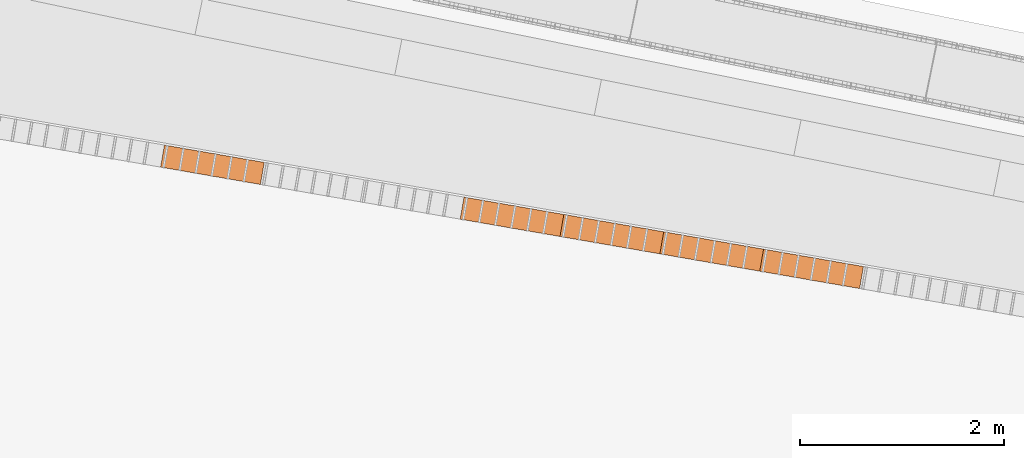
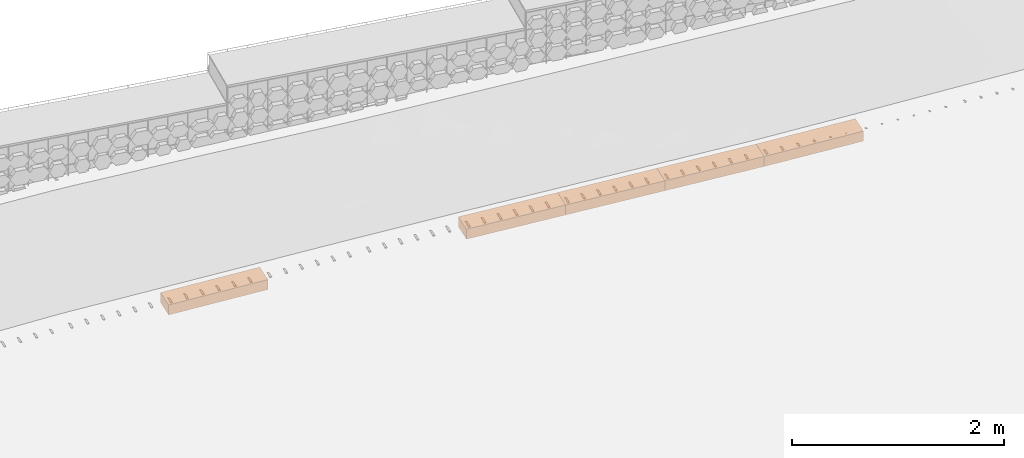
# Not in any storey, part 28 of 33: 5 proxies.
"""IFC4 model written with IfcOpenShell, lengths in metres."""

from ifc_helpers import new_model, si_unit, direction, frame, origin_with_axes, place, context, subcontext, project, spatial, polygons, material, element, save


model = new_model("IFC4")

# Units and contexts
model_context = context("Model", 3, precision=1e-05, world=origin_with_axes(), true_north=direction((0.0, 1.0)))
body_context = subcontext(model_context, "Body", "Model", "MODEL_VIEW")
ifc_project = project(units=[si_unit("LENGTHUNIT", "METRE"), si_unit("AREAUNIT", "SQUARE_METRE"), si_unit("VOLUMEUNIT", "CUBIC_METRE")], contexts=[model_context])

# Site
site_placement = place(None, origin_with_axes())
site = spatial("IfcSite", under=ifc_project, at=site_placement, Name="Lares · Rua das Mercês · artigo 4771")

# Proxies
ifc_material = material(Name="Brita drenante", Category="stone")
proxy_1_placement = place(site_placement, frame((0.0, 0.0, 0.0), z_axis=(0.0, 0.0, 1.0), x_axis=(1.0, -1.03767253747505e-17, 0.0)))
element("IfcBuildingElementProxy", 1, at=proxy_1_placement, inside=site, material=ifc_material, Name="Acesso · dreno lateral raso · leito drenante", ObjectType="Acesso · dreno lateral raso · leito drenante", PredefinedType="USERDEFINED", context=body_context, shape_type="Tessellation", body=[
    polygons([(64.5454351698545, 8.57429787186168, 15.3820631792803), (64.5830866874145, 8.79105202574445, 15.3820631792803), (65.5640262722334, 8.62065684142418, 15.4340917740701), (65.5263747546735, 8.40390268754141, 15.4340917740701), (64.5454351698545, 8.57429787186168, 15.4970631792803), (64.5830866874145, 8.79105202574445, 15.4970631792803), (65.5640262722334, 8.62065684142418, 15.5490917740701), (65.5263747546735, 8.40390268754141, 15.5490917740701)], [[[4, 3, 2, 1]], [[5, 6, 7, 8]], [[1, 2, 6, 5]], [[2, 3, 7, 6]], [[3, 4, 8, 7]], [[4, 1, 5, 8]]]),
])
proxy_2_placement = place(site_placement, frame((0.0, 0.0, 0.0), z_axis=(0.0, 0.0, 1.0), x_axis=(1.0, -1.03767253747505e-17, 0.0)))
element("IfcBuildingElementProxy", 2, at=proxy_2_placement, inside=site, material=ifc_material, Name="Acesso · dreno lateral raso · leito drenante", ObjectType="Acesso · dreno lateral raso · leito drenante", PredefinedType="USERDEFINED", context=body_context, shape_type="Tessellation", body=[
    polygons([(67.4882733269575, 8.06311101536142, 15.5326943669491), (67.5259243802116, 8.27986524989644, 15.5326943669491), (68.5068837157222, 8.10946879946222, 15.5712781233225), (68.4692326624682, 7.8927145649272, 15.5712781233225), (67.4882733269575, 8.06311101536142, 15.6476943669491), (67.5259243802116, 8.27986524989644, 15.6476943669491), (68.5068837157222, 8.10946879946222, 15.6862781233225), (68.4692326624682, 7.8927145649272, 15.6862781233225)], [[[4, 3, 2, 1]], [[5, 6, 7, 8]], [[1, 2, 6, 5]], [[2, 3, 7, 6]], [[3, 4, 8, 7]], [[4, 1, 5, 8]]]),
])
proxy_3_placement = place(site_placement, frame((0.0, 0.0, 0.0), z_axis=(0.0, 0.0, 1.0), x_axis=(1.0, -1.03767253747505e-17, 0.0)))
element("IfcBuildingElementProxy", 3, at=proxy_3_placement, inside=site, material=ifc_material, Name="Acesso · dreno lateral raso · leito drenante", ObjectType="Acesso · dreno lateral raso · leito drenante", PredefinedType="USERDEFINED", context=body_context, shape_type="Tessellation", body=[
    polygons([(68.4692327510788, 7.89271454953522, 15.5712781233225), (68.5068836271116, 8.10946881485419, 15.5712781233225), (69.487850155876, 7.93907194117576, 15.6098622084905), (69.4501992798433, 7.72231767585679, 15.6098622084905), (68.4692327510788, 7.89271454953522, 15.6862781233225), (68.5068836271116, 8.10946881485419, 15.6862781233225), (69.487850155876, 7.93907194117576, 15.7248622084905), (69.4501992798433, 7.72231767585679, 15.7248622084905)], [[[4, 3, 2, 1]], [[5, 6, 7, 8]], [[1, 2, 6, 5]], [[2, 3, 7, 6]], [[3, 4, 8, 7]], [[4, 1, 5, 8]]]),
])
proxy_4_placement = place(site_placement, frame((0.0, 0.0, 0.0), z_axis=(0.0, 0.0, 1.0), x_axis=(1.0, -1.03767253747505e-17, 0.0)))
element("IfcBuildingElementProxy", 4, at=proxy_4_placement, inside=site, material=ifc_material, Name="Acesso · dreno lateral raso · leito drenante", ObjectType="Acesso · dreno lateral raso · leito drenante", PredefinedType="USERDEFINED", context=body_context, shape_type="Tessellation", body=[
    polygons([(69.4501993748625, 7.7223176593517, 15.6098622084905), (69.4878500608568, 7.93907195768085, 15.6098622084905), (70.4688241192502, 7.76867466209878, 15.6484466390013), (70.4311734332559, 7.55192036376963, 15.6484466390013), (69.4501993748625, 7.7223176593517, 15.7248622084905), (69.4878500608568, 7.93907195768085, 15.7248622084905), (70.4688241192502, 7.76867466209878, 15.7634466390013), (70.4311734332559, 7.55192036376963, 15.7634466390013)], [[[4, 3, 2, 1]], [[5, 6, 7, 8]], [[1, 2, 6, 5]], [[2, 3, 7, 6]], [[3, 4, 8, 7]], [[4, 1, 5, 8]]]),
])
proxy_5_placement = place(site_placement, frame((0.0, 0.0, 0.0), z_axis=(0.0, 0.0, 1.0), x_axis=(1.0, -1.03767253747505e-17, 0.0)))
element("IfcBuildingElementProxy", 5, at=proxy_5_placement, inside=site, material=ifc_material, Name="Acesso · dreno lateral raso · leito drenante", ObjectType="Acesso · dreno lateral raso · leito drenante", PredefinedType="USERDEFINED", context=body_context, shape_type="Tessellation", body=[
    polygons([(70.4311735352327, 7.5519203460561, 15.6484466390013), (70.4688240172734, 7.76867467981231, 15.6484466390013), (71.4498059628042, 7.59827696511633, 15.7002770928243), (71.4121554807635, 7.38152263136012, 15.7002770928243), (70.4311735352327, 7.5519203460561, 15.7634466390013), (70.4688240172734, 7.76867467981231, 15.7634466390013), (71.4498059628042, 7.59827696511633, 15.8152770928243), (71.4121554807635, 7.38152263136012, 15.8152770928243)], [[[4, 3, 2, 1]], [[5, 6, 7, 8]], [[1, 2, 6, 5]], [[2, 3, 7, 6]], [[3, 4, 8, 7]], [[4, 1, 5, 8]]]),
])

save(model, "model.ifc")
